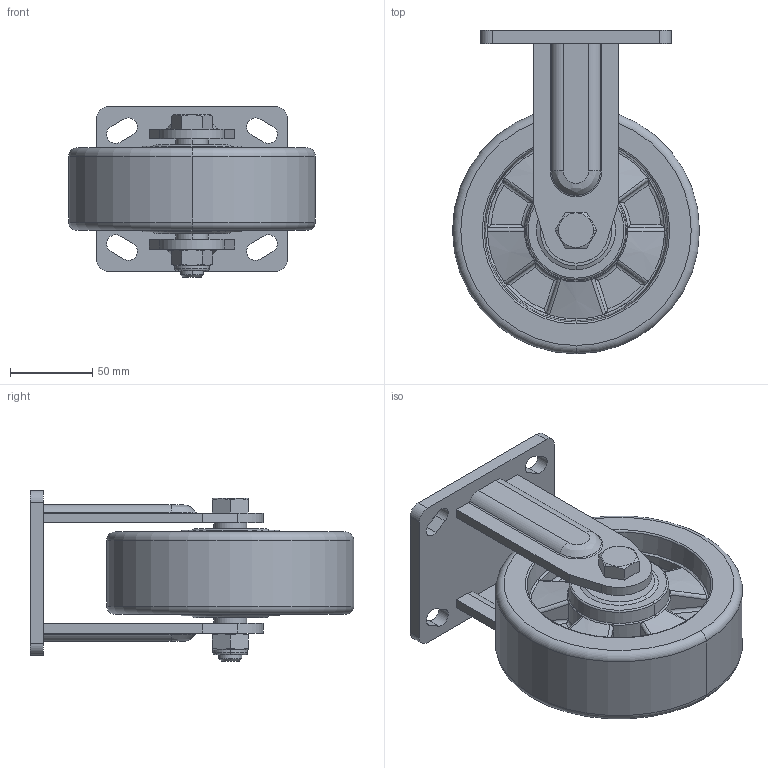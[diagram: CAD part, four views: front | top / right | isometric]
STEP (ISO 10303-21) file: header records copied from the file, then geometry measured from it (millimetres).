
FILE_DESCRIPTION((''),'2;1');
FILE_NAME('78106-706-26_ASM','2020-07-09T',('lenovo'),(''),'PRO/ENGINEER BY PARAMETRIC TECHNOLOGY CORPORATION, 2010280','PRO/ENGINEER BY PARAMETRIC TECHNOLOGY CORPORATION, 2010280','');
FILE_SCHEMA(('CONFIG_CONTROL_DESIGN'));
Length unit declared in the file: millimetre
Products named in the file (6): 780C00; 786C10; 780F-33-; 780-34; 766-86A; 78106-706-26_ASM
Assembly tree (5 placements, depth 2):
  78106-706-26_ASM
    780C00
    786C10
    780F-33-
    780-34
    766-86A
Bounding box: 150 x 196.5 x 103.5 mm (x, y, z)
Volume: 844459.1 mm3; surface area: 146769.7 mm2
Topology: 6 solids, 6 shells, 300 faces, 727 edges, 446 vertices
Faces by surface type: cylinder 98, plane 87, torus 50, cone 34, bspline 31
Entity records: 12350 total; most frequent: CARTESIAN_POINT 5329, ORIENTED_EDGE 1454, DIRECTION 1426, EDGE_CURVE 727, AXIS2_PLACEMENT_3D 560, VERTEX_POINT 446, EDGE_LOOP 323, VECTOR 306
